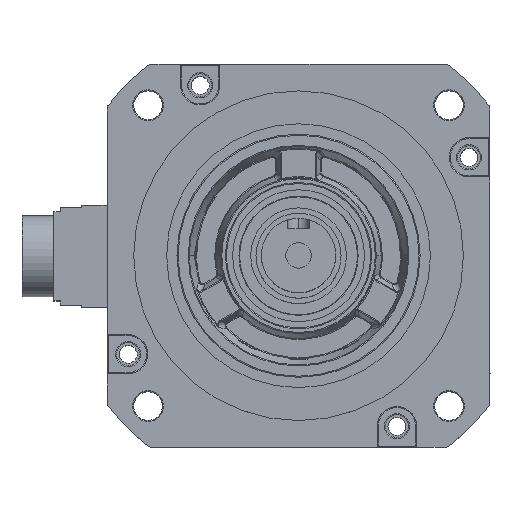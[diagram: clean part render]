
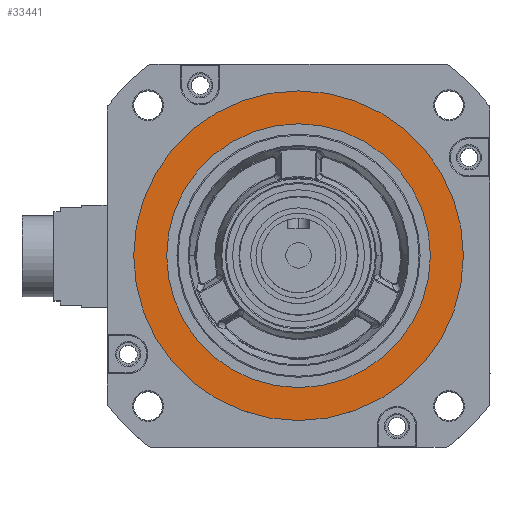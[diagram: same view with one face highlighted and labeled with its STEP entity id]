
A CAD part, top view. The second image highlights one B-rep face of the part: STEP entity #33441.
In plain terms, the highlighted planar face has unit normal (0, 0, 1).
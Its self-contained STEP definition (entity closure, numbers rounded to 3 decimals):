
#21802=CARTESIAN_POINT('Vertex',(68.644,3.946,61.604)) ;
#21809=CARTESIAN_POINT('Vertex',(-86.356,3.946,61.604)) ;
#21812=CARTESIAN_POINT('Axis2P3D Location',(-8.856,3.946,61.604)) ;
#21824=CARTESIAN_POINT('Axis2P3D Location',(-8.856,3.946,61.604)) ;
#33414=CARTESIAN_POINT('Axis2P3D Location',(-8.856,3.946,61.604)) ;
#33423=CARTESIAN_POINT('Axis2P3D Location',(-8.856,3.946,61.604)) ;
#33427=CARTESIAN_POINT('Vertex',(-70.856,3.946,61.604)) ;
#33429=CARTESIAN_POINT('Vertex',(53.144,3.946,61.604)) ;
#33432=CARTESIAN_POINT('Axis2P3D Location',(-8.856,3.946,61.604)) ;
#21813=DIRECTION('Axis2P3D Direction',(0.,0.,1.)) ;
#21825=DIRECTION('Axis2P3D Direction',(0.,0.,1.)) ;
#33415=DIRECTION('Axis2P3D Direction',(0.,0.,1.)) ;
#33416=DIRECTION('Axis2P3D XDirection',(1.,0.,0.)) ;
#33424=DIRECTION('Axis2P3D Direction',(0.,0.,1.)) ;
#33433=DIRECTION('Axis2P3D Direction',(0.,0.,1.)) ;
#21814=AXIS2_PLACEMENT_3D('Circle Axis2P3D',#21812,#21813,$) ;
#21826=AXIS2_PLACEMENT_3D('Circle Axis2P3D',#21824,#21825,$) ;
#33417=AXIS2_PLACEMENT_3D('Plane Axis2P3D',#33414,#33415,#33416) ;
#33425=AXIS2_PLACEMENT_3D('Circle Axis2P3D',#33423,#33424,$) ;
#33434=AXIS2_PLACEMENT_3D('Circle Axis2P3D',#33432,#33433,$) ;
#33420=ORIENTED_EDGE('',*,*,#21816,.T.) ;
#33421=ORIENTED_EDGE('',*,*,#21828,.T.) ;
#33438=ORIENTED_EDGE('',*,*,#33431,.F.) ;
#33439=ORIENTED_EDGE('',*,*,#33436,.F.) ;
#33440=FACE_BOUND('',#33437,.T.) ;
#33441=ADVANCED_FACE('\X2\96F64EF651E04F554F53\X0\',(#33422,#33440),#33418,.T.) ;
#21815=CIRCLE('generated circle',#21814,77.5) ;
#21827=CIRCLE('generated circle',#21826,77.5) ;
#33426=CIRCLE('generated circle',#33425,62.) ;
#33435=CIRCLE('generated circle',#33434,62.) ;
#21816=EDGE_CURVE('',#21803,#21810,#21815,.T.) ;
#21828=EDGE_CURVE('',#21810,#21803,#21827,.T.) ;
#33431=EDGE_CURVE('',#33428,#33430,#33426,.T.) ;
#33436=EDGE_CURVE('',#33430,#33428,#33435,.T.) ;
#33419=EDGE_LOOP('',(#33420,#33421)) ;
#33437=EDGE_LOOP('',(#33438,#33439)) ;
#33422=FACE_OUTER_BOUND('',#33419,.T.) ;
#33418=PLANE('Plane',#33417) ;
#21803=VERTEX_POINT('',#21802) ;
#21810=VERTEX_POINT('',#21809) ;
#33428=VERTEX_POINT('',#33427) ;
#33430=VERTEX_POINT('',#33429) ;
